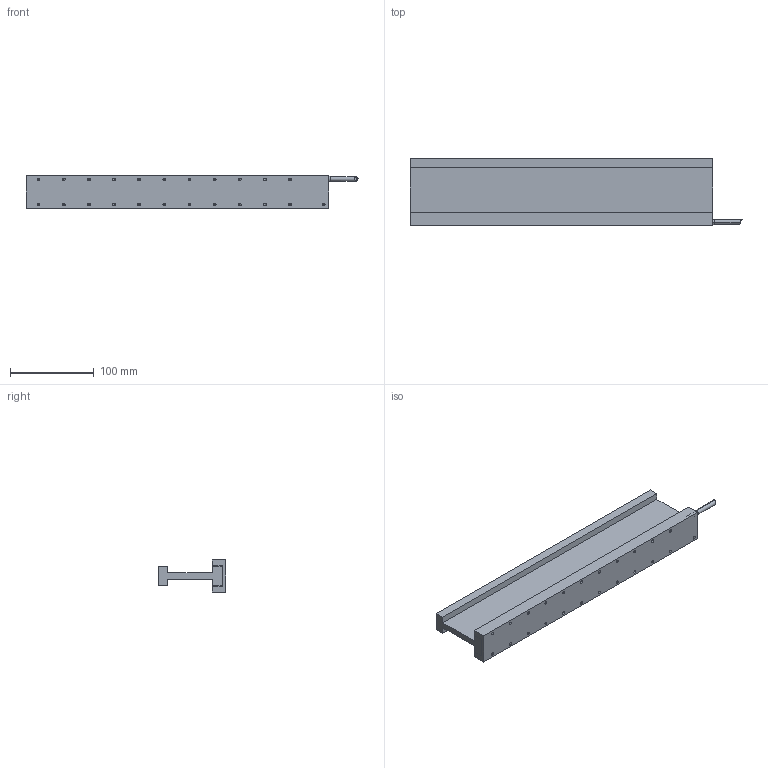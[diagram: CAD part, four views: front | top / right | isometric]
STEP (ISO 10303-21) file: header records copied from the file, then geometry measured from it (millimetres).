
FILE_DESCRIPTION (( 'STEP AP214' ), '1' );
FILE_NAME ('DX50F-C6-NH -REV00.step', '2022-05-06T02:57:25', ( '' ), ( '' ), 'SwSTEP 2.0', 'SolidWorks 2020', '' );
FILE_SCHEMA (( 'AUTOMOTIVE_DESIGN' ));
Length unit declared in the file: millimetre
Products named in the file (1): DX50F-C6-NH -REV00
Bounding box: 396 x 80 x 38.2 mm (x, y, z)
Volume: 444108.9 mm3; surface area: 137059.7 mm2
Topology: 3 solids, 3 shells, 149 faces, 368 edges, 204 vertices
Faces by surface type: cylinder 62, cone 48, plane 37, torus 2
Entity records: 5730 total; most frequent: DIRECTION 736, CARTESIAN_POINT 701, ORIENTED_EDGE 640, EDGE_CURVE 320, AXIS2_PLACEMENT_3D 275, VERTEX_POINT 204, VECTOR 186, LINE 186
